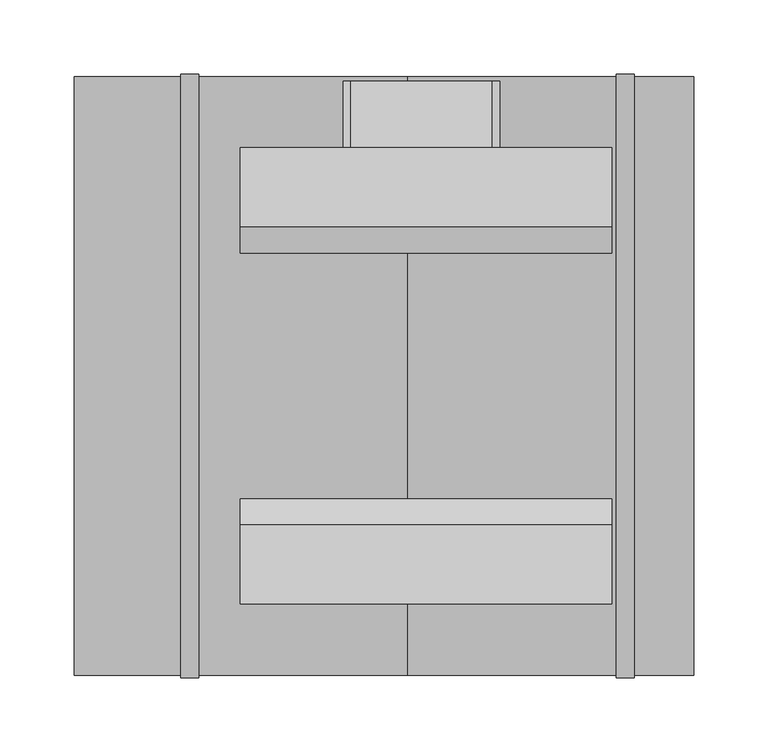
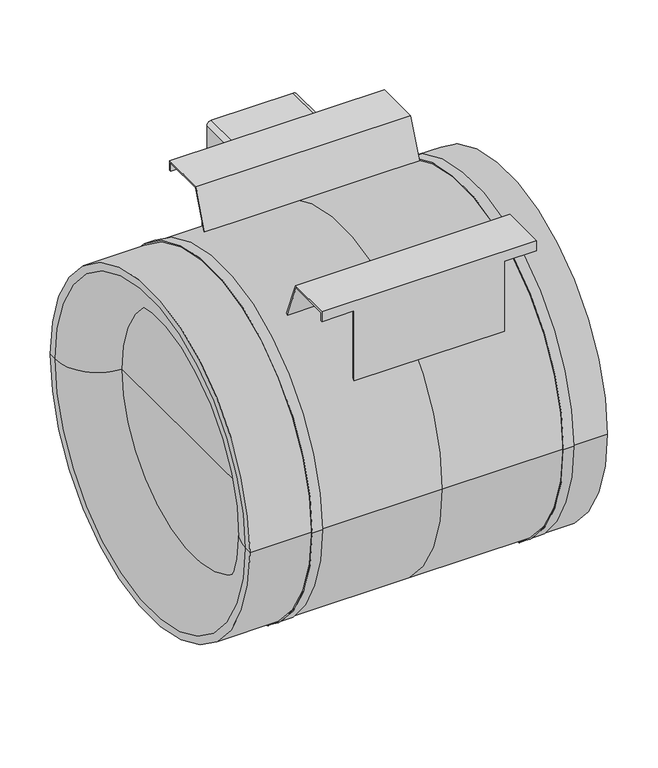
"""IFC4 building model written with IfcOpenShell, lengths in millimetres: unitary equipment geometry, VE-Wentylator-ParaForma-Harmann-JETTEC-Nawiewny : 400/3400S."""

from ifc_helpers import new_model, si_unit, point, frame, frame_2d, origin, place, context, project, spatial, polyline, circle_curve, ellipse_curve, trimmed, segment, composite_curve, outline, extrude, source, transform, mapped, element, save
from ifc_brep_helpers import plane_surface, cylinder_surface, revolved_surface, advanced_brep


def unitary_equipment_eebdb97d(model_context):
    return source(origin(), model_context, "Body", "SolidModel", [
        extrude(outline(composite_curve([segment(trimmed(circle_curve(frame_2d((138.9, 57.2)), 5.0), [point((133.9, 57.2))], [point((138.9, 62.2))], False, "CARTESIAN"), True, "CONTINUOUS"), segment(polyline([(138.9, 62.2), (219.9, 62.2)]), True, "CONTINUOUS"), segment(trimmed(circle_curve(frame_2d((219.9, 57.2)), 5.0), [point((219.9, 62.2))], [point((224.9, 57.2))], False, "CARTESIAN"), True, "CONTINUOUS"), segment(polyline([(224.9, 57.2), (224.9, -38.2)]), True, "CONTINUOUS"), segment(trimmed(circle_curve(frame_2d((219.9, -38.2)), 5.0), [point((224.9, -38.2))], [point((219.9, -43.2))], False, "CARTESIAN"), True, "CONTINUOUS"), segment(polyline([(219.9, -43.2), (138.9, -43.2)]), True, "CONTINUOUS"), segment(trimmed(circle_curve(frame_2d((138.9, -38.2)), 5.0), [point((138.9, -43.2))], [point((133.9, -38.2))], False, "CARTESIAN"), True, "CONTINUOUS"), segment(polyline([(133.9, -38.2), (133.9, 57.2)]), True, "CONTINUOUS")], self_intersect=False)), frame((0.0, 153.5, 0.0), z_axis=(0.0, 1.0, 0.0), x_axis=(0.0, 0.0, 1.0)), (0.0, 0.0, 1.0), 45.0),
        advanced_brep(
        [(137.5, 153.5, 216.5), (137.5, 153.5, 228.5), (137.5, 100.1, 228.5), (137.5, 82.790246, 183.7063558), (137.5, 84.6127647, 182.8740825), (137.5, 101.4712703, 226.5), (137.5, 151.5, 226.5), (137.5, 151.5, 216.5), (100.0, 151.5, 216.5), (100.0, 153.5, 216.5), (-112.5, 151.5, 226.5), (-112.5, 151.5, 216.5), (-75.0, 151.5, 216.5), (-75.0, 151.5, 132.8533026), (100.0, 151.5, 132.8533026), (-112.5, 101.4712703, 226.5), (100.0, 84.6127647, 182.8740825), (-75.0, 84.6127647, 182.8740825), (-112.5, 84.6127647, 182.8740825), (-112.5, 100.1, 228.5), (-112.5, 82.790246, 183.7063558), (-75.0, 82.790246, 183.7063558), (100.0, 82.790246, 183.7063558), (-112.5, 153.5, 228.5), (100.0, 153.5, 130.537351), (-75.0, 153.5, 130.537351), (-75.0, 153.5, 216.5), (-112.5, 153.5, 216.5)],
        [
            (0, 1),
            (1, 2),
            (2, 3),
            (3, 4, circle_curve(frame((137.5, 0.0, 0.0), z_axis=(-1.0, 0.0, 0.0), x_axis=(0.0, 1.0, 0.0)), 201.5)),
            (4, 5),
            (5, 6),
            (6, 7),
            (7, 0),
            (7, 8),
            (8, 9),
            (9, 0),
            (6, 10),
            (10, 11),
            (11, 12),
            (12, 13),
            (13, 14),
            (14, 8),
            (5, 15),
            (15, 10),
            (4, 16),
            (16, 17),
            (17, 18),
            (18, 15),
            (19, 20),
            (20, 21),
            (21, 22),
            (22, 3),
            (2, 19),
            (1, 23),
            (23, 19),
            (9, 24),
            (24, 25),
            (25, 26),
            (26, 27),
            (27, 23),
            (20, 18, circle_curve(frame((-112.5, 0.0, 0.0), z_axis=(-1.0, 0.0, 0.0), x_axis=(0.0, 1.0, 0.0)), 201.5)),
            (17, 21, circle_curve(frame((-75.0, 0.0, 0.0), z_axis=(1.0, 0.0, 0.0), x_axis=(0.0, 1.0, 0.0)), 201.5)),
            (22, 16, circle_curve(frame((100.0, 0.0, 0.0), z_axis=(-1.0, 0.0, 0.0), x_axis=(0.0, 1.0, 0.0)), 201.5)),
            (25, 13, circle_curve(frame((-75.0, 0.0, 0.0), z_axis=(1.0, 0.0, 0.0), x_axis=(0.0, 1.0, 0.0)), 201.5)),
            (12, 26),
            (14, 24, circle_curve(frame((100.0, 0.0, 0.0), z_axis=(-1.0, 0.0, 0.0), x_axis=(0.0, 1.0, 0.0)), 201.5)),
            (27, 11),
        ],
        [
            plane_surface(frame((137.5, 0.0, 0.0), z_axis=(1.0, 0.0, 0.0), x_axis=(0.0, 0.0, 1.0))),
            plane_surface(frame((100.0, 153.5, 216.5), z_axis=(0.0, 0.0, -1.0), x_axis=(1.0, 0.0, 0.0))),
            plane_surface(frame((100.0, 151.5, 216.5), z_axis=(0.0, -1.0, 0.0), x_axis=(1.0, 0.0, 0.0))),
            plane_surface(frame((100.0, 151.5, 226.5), z_axis=(0.0, 0.0, -1.0), x_axis=(1.0, 0.0, 0.0))),
            plane_surface(frame((100.0, 101.4712703, 226.5), z_axis=(0.0, 0.932776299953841, -0.36045578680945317), x_axis=(1.0, 0.0, 0.0))),
            plane_surface(frame((100.0, 11.8, 0.0), z_axis=(0.0, -0.9327762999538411, 0.36045578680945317), x_axis=(1.0, 0.0, 0.0))),
            plane_surface(frame((100.0, 100.1, 228.5), z_axis=(0.0, 0.0, 1.0), x_axis=(1.0, 0.0, 0.0))),
            plane_surface(frame((100.0, 153.5, 228.5), z_axis=(0.0, 1.0, 0.0), x_axis=(1.0, 0.0, 0.0))),
            revolved_surface(polyline([(-112.5, 201.5, 0.0), (-75.0, 201.5, 0.0)]), (-112.5, 0.0, 0.0), (-1.0, 0.0, 0.0)),
            revolved_surface(polyline([(100.0, 201.5, 0.0), (137.5, 201.5, 0.0)]), (100.0, 0.0, 0.0), (-1.0, 0.0, 0.0)),
            plane_surface(frame((-75.0, 0.0, 0.0), z_axis=(-1.0, 0.0, 0.0), x_axis=(0.0, 0.0, 1.0))),
            plane_surface(frame((100.0, 0.0, 0.0), z_axis=(1.0, 0.0, 0.0), x_axis=(0.0, 0.0, 1.0))),
            revolved_surface(polyline([(-75.0, 201.5, 0.0), (100.0, 201.5, 0.0)]), (-75.0, 0.0, 0.0), (-1.0, 0.0, 0.0)),
            plane_surface(frame((-112.5, 0.0, 0.0), z_axis=(-1.0, 0.0, 0.0), x_axis=(0.0, 0.0, 1.0))),
            plane_surface(frame((-112.5, 153.5, 216.5), z_axis=(0.0, 0.0, -1.0), x_axis=(1.0, 0.0, 0.0))),
        ],
        [
            (0, [[1, 2, 3, 4, 5, 6, 7, 8]]),
            (1, [[-8, 9, 10, 11]]),
            (2, [[-7, 12, 13, 14, 15, 16, 17, -9]]),
            (3, [[-12, -6, 18, 19]]),
            (4, [[-18, -5, 20, 21, 22, 23]]),
            (5, [[24, 25, 26, 27, -3, 28]]),
            (6, [[-28, -2, 29, 30]]),
            (7, [[-29, -1, -11, 31, 32, 33, 34, 35]]),
            (8, [[36, -22, 37, -25]]),
            (9, [[-4, -27, 38, -20]]),
            (10, [[39, -15, 40, -33]]),
            (11, [[41, -31, -10, -17]]),
            (12, [[-21, -38, -26, -37]]),
            (12, [[-39, -32, -41, -16]]),
            (13, [[42, -13, -19, -23, -36, -24, -30, -35]]),
            (14, [[-42, -34, -40, -14]]),
        ],
    ),
        advanced_brep(
        [(137.5, -100.1, 228.5), (137.5, -153.5, 228.5), (137.5, -153.5, 216.5), (137.5, -151.5, 216.5), (137.5, -151.5, 226.5), (137.5, -101.4712703, 226.5), (137.5, -84.6127647, 182.8740825), (137.5, -82.790246, 183.7063558), (-112.5, -101.4712703, 226.5), (-112.5, -84.6127647, 182.8740825), (-75.0, -84.6127647, 182.8740825), (100.0, -84.6127647, 182.8740825), (-112.5, -151.5, 226.5), (100.0, -151.5, 216.5), (100.0, -151.5, 132.8533026), (-75.0, -151.5, 132.8533026), (-75.0, -151.5, 216.5), (-112.5, -151.5, 216.5), (100.0, -153.5, 216.5), (-112.5, -153.5, 228.5), (-112.5, -153.5, 216.5), (-75.0, -153.5, 216.5), (-75.0, -153.5, 130.537351), (100.0, -153.5, 130.537351), (-112.5, -100.1, 228.5), (100.0, -82.790246, 183.7063558), (-75.0, -82.790246, 183.7063558), (-112.5, -82.790246, 183.7063558)],
        [
            (0, 1),
            (1, 2),
            (2, 3),
            (3, 4),
            (4, 5),
            (5, 6),
            (6, 7, circle_curve(frame((137.5, 0.0, 0.0), z_axis=(-1.0, 0.0, 0.0), x_axis=(0.0, 1.0, 0.0)), 201.5)),
            (7, 0),
            (8, 9),
            (9, 10),
            (10, 11),
            (11, 6),
            (5, 8),
            (4, 12),
            (12, 8),
            (3, 13),
            (13, 14),
            (14, 15),
            (15, 16),
            (16, 17),
            (17, 12),
            (2, 18),
            (18, 13),
            (1, 19),
            (19, 20),
            (20, 21),
            (21, 22),
            (22, 23),
            (23, 18),
            (0, 24),
            (24, 19),
            (7, 25),
            (25, 26),
            (26, 27),
            (27, 24),
            (9, 27, circle_curve(frame((-112.5, 0.0, 0.0), z_axis=(-1.0, 0.0, 0.0), x_axis=(0.0, 1.0, 0.0)), 201.5)),
            (26, 10, circle_curve(frame((-75.0, 0.0, 0.0), z_axis=(1.0, 0.0, 0.0), x_axis=(0.0, 1.0, 0.0)), 201.5)),
            (11, 25, circle_curve(frame((100.0, 0.0, 0.0), z_axis=(-1.0, 0.0, 0.0), x_axis=(0.0, 1.0, 0.0)), 201.5)),
            (15, 22, circle_curve(frame((-75.0, 0.0, 0.0), z_axis=(1.0, 0.0, 0.0), x_axis=(0.0, 1.0, 0.0)), 201.5)),
            (21, 16),
            (23, 14, circle_curve(frame((100.0, 0.0, 0.0), z_axis=(-1.0, 0.0, 0.0), x_axis=(0.0, 1.0, 0.0)), 201.5)),
            (17, 20),
        ],
        [
            plane_surface(frame((137.5, 0.0, 0.0), z_axis=(1.0, 0.0, 0.0), x_axis=(0.0, 0.0, 1.0))),
            plane_surface(frame((100.0, -13.1712703, -2.0), z_axis=(0.0, -0.932776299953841, -0.36045578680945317), x_axis=(1.0, 0.0, 0.0))),
            plane_surface(frame((100.0, -101.4712703, 226.5), z_axis=(0.0, 0.0, -1.0), x_axis=(1.0, 0.0, 0.0))),
            plane_surface(frame((100.0, -151.5, 226.5), z_axis=(0.0, 1.0, 0.0), x_axis=(1.0, 0.0, 0.0))),
            plane_surface(frame((100.0, -151.5, 216.5), z_axis=(0.0, 0.0, -1.0), x_axis=(1.0, 0.0, 0.0))),
            plane_surface(frame((100.0, -153.5, 216.5), z_axis=(0.0, -1.0, 0.0), x_axis=(1.0, 0.0, 0.0))),
            plane_surface(frame((100.0, -153.5, 228.5), z_axis=(0.0, 0.0, 1.0), x_axis=(1.0, 0.0, 0.0))),
            plane_surface(frame((100.0, -100.1, 228.5), z_axis=(0.0, 0.9327762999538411, 0.36045578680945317), x_axis=(1.0, 0.0, 0.0))),
            revolved_surface(polyline([(-112.5, 201.5, 0.0), (-75.0, 201.5, 0.0)]), (-112.5, 0.0, 0.0), (-1.0, 0.0, 0.0)),
            revolved_surface(polyline([(100.0, 201.5, 0.0), (137.5, 201.5, 0.0)]), (100.0, 0.0, 0.0), (-1.0, 0.0, 0.0)),
            plane_surface(frame((-75.0, 0.0, 0.0), z_axis=(-1.0, 0.0, 0.0), x_axis=(0.0, 0.0, 1.0))),
            plane_surface(frame((100.0, 0.0, 0.0), z_axis=(1.0, 0.0, 0.0), x_axis=(0.0, 0.0, 1.0))),
            revolved_surface(polyline([(-75.0, 201.5, 0.0), (100.0, 201.5, 0.0)]), (-75.0, 0.0, 0.0), (-1.0, 0.0, 0.0)),
            plane_surface(frame((-112.5, 0.0, 0.0), z_axis=(-1.0, 0.0, 0.0), x_axis=(0.0, 0.0, 1.0))),
            plane_surface(frame((-112.5, -151.5, 216.5), z_axis=(0.0, 0.0, -1.0), x_axis=(1.0, 0.0, 0.0))),
        ],
        [
            (0, [[1, 2, 3, 4, 5, 6, 7, 8]]),
            (1, [[9, 10, 11, 12, -6, 13]]),
            (2, [[-13, -5, 14, 15]]),
            (3, [[-14, -4, 16, 17, 18, 19, 20, 21]]),
            (4, [[-3, 22, 23, -16]]),
            (5, [[-2, 24, 25, 26, 27, 28, 29, -22]]),
            (6, [[-24, -1, 30, 31]]),
            (7, [[-30, -8, 32, 33, 34, 35]]),
            (8, [[36, -34, 37, -10]]),
            (9, [[-7, -12, 38, -32]]),
            (10, [[39, -27, 40, -19]]),
            (11, [[41, -17, -23, -29]]),
            (12, [[-11, -37, -33, -38]]),
            (12, [[-39, -18, -41, -28]]),
            (13, [[-15, -21, 42, -25, -31, -35, -36, -9]]),
            (14, [[-42, -20, -40, -26]]),
        ],
    ),
        advanced_brep(
        [(-140.5, 201.5, 0.0), (0.0, 201.5, 0.0), (0.0, -201.5, 0.0), (-140.5, -201.5, 0.0), (-224.0, -201.5, 0.0), (-224.0, 201.5, 0.0), (-152.5, 201.5, 0.0), (-152.5, -201.5, 0.0), (-224.0, -192.5, 0.0), (-224.0, 192.5, 0.0), (-174.5, -143.0, 0.0), (-174.5, 143.0, 0.0), (-174.5, 0.0, 0.0), (192.5, -201.5, 0.0), (192.5, 201.5, 0.0), (192.5, 0.0, 0.0), (152.5, -201.5, 0.0), (152.5, 201.5, 0.0), (140.5, 201.5, 0.0), (140.5, -201.5, 0.0), (-140.5, -203.0, 0.0), (-140.5, 203.0, 0.0), (-152.5, -203.0, 0.0), (-152.5, 203.0, 0.0), (152.5, -203.0, 0.0), (152.5, 203.0, 0.0), (140.5, -203.0, 0.0), (140.5, 203.0, 0.0)],
        [
            (0, 1),
            (1, 2, circle_curve(frame((0.0, 0.0, 0.0), z_axis=(-1.0, 0.0, 0.0), x_axis=(0.0, 1.0, 0.0)), 201.5)),
            (2, 3),
            (3, 0, circle_curve(frame((-140.5, 0.0, 0.0), z_axis=(1.0, 0.0, 0.0), x_axis=(0.0, 1.0, 0.0)), 201.5)),
            (0, 3, circle_curve(frame((-140.5, 0.0, 0.0), z_axis=(1.0, 0.0, 0.0), x_axis=(0.0, 1.0, 0.0)), 201.5)),
            (2, 1, circle_curve(frame((0.0, 0.0, 0.0), z_axis=(-1.0, 0.0, 0.0), x_axis=(0.0, 1.0, 0.0)), 201.5)),
            (4, 5, circle_curve(frame((-224.0, 0.0, 0.0), z_axis=(1.0, 0.0, 0.0), x_axis=(0.0, 1.0, 0.0)), 201.5)),
            (5, 6),
            (6, 7, circle_curve(frame((-152.5, 0.0, 0.0), z_axis=(-1.0, 0.0, 0.0), x_axis=(0.0, 1.0, 0.0)), 201.5)),
            (7, 4),
            (5, 4, circle_curve(frame((-224.0, 0.0, 0.0), z_axis=(1.0, 0.0, 0.0), x_axis=(0.0, 1.0, 0.0)), 201.5)),
            (7, 6, circle_curve(frame((-152.5, 0.0, 0.0), z_axis=(-1.0, 0.0, 0.0), x_axis=(0.0, 1.0, 0.0)), 201.5)),
            (4, 8),
            (8, 9, circle_curve(frame((-224.0, 0.0, 0.0), z_axis=(1.0, 0.0, 0.0), x_axis=(0.0, 1.0, 0.0)), 192.5)),
            (9, 5),
            (9, 8, circle_curve(frame((-224.0, 0.0, 0.0), z_axis=(1.0, 0.0, 0.0), x_axis=(0.0, 1.0, 0.0)), 192.5)),
            (8, 10, circle_curve(frame((-174.5, -192.5, 0.0), z_axis=(0.0, 0.0, -1.0), x_axis=(1.0, 0.0, 0.0)), 49.5)),
            (10, 11, circle_curve(frame((-174.5, 0.0, 0.0), z_axis=(1.0, 0.0, 0.0), x_axis=(0.0, 1.0, 0.0)), 143.0)),
            (11, 9, circle_curve(frame((-174.5, 192.5, 0.0), z_axis=(0.0, 0.0, -1.0), x_axis=(1.0, 0.0, 0.0)), 49.5)),
            (11, 10, circle_curve(frame((-174.5, 0.0, 0.0), z_axis=(1.0, 0.0, 0.0), x_axis=(0.0, 1.0, 0.0)), 143.0)),
            (10, 12),
            (12, 11),
            (13, 14, circle_curve(frame((192.5, 0.0, 0.0), z_axis=(1.0, 0.0, 0.0), x_axis=(0.0, 1.0, 0.0)), 201.5)),
            (14, 15),
            (15, 13),
            (14, 13, circle_curve(frame((192.5, 0.0, 0.0), z_axis=(1.0, 0.0, 0.0), x_axis=(0.0, 1.0, 0.0)), 201.5)),
            (13, 16),
            (16, 17, circle_curve(frame((152.5, 0.0, 0.0), z_axis=(1.0, 0.0, 0.0), x_axis=(0.0, 1.0, 0.0)), 201.5)),
            (17, 14),
            (17, 16, circle_curve(frame((152.5, 0.0, 0.0), z_axis=(1.0, 0.0, 0.0), x_axis=(0.0, 1.0, 0.0)), 201.5)),
            (1, 18),
            (18, 19, circle_curve(frame((140.5, 0.0, 0.0), z_axis=(-1.0, 0.0, 0.0), x_axis=(0.0, 1.0, 0.0)), 201.5)),
            (19, 2),
            (19, 18, circle_curve(frame((140.5, 0.0, 0.0), z_axis=(-1.0, 0.0, 0.0), x_axis=(0.0, 1.0, 0.0)), 201.5)),
            (20, 21, circle_curve(frame((-140.5, 0.0, 0.0), z_axis=(1.0, 0.0, 0.0), x_axis=(0.0, 1.0, 0.0)), 203.0)),
            (21, 0),
            (3, 20),
            (21, 20, circle_curve(frame((-140.5, 0.0, 0.0), z_axis=(1.0, 0.0, 0.0), x_axis=(0.0, 1.0, 0.0)), 203.0)),
            (20, 22),
            (22, 23, circle_curve(frame((-152.5, 0.0, 0.0), z_axis=(1.0, 0.0, 0.0), x_axis=(0.0, 1.0, 0.0)), 203.0)),
            (23, 21),
            (23, 22, circle_curve(frame((-152.5, 0.0, 0.0), z_axis=(1.0, 0.0, 0.0), x_axis=(0.0, 1.0, 0.0)), 203.0)),
            (22, 7),
            (6, 23),
            (24, 25, circle_curve(frame((152.5, 0.0, 0.0), z_axis=(1.0, 0.0, 0.0), x_axis=(0.0, 1.0, 0.0)), 203.0)),
            (25, 17),
            (16, 24),
            (25, 24, circle_curve(frame((152.5, 0.0, 0.0), z_axis=(1.0, 0.0, 0.0), x_axis=(0.0, 1.0, 0.0)), 203.0)),
            (24, 26),
            (26, 27, circle_curve(frame((140.5, 0.0, 0.0), z_axis=(1.0, 0.0, 0.0), x_axis=(0.0, 1.0, 0.0)), 203.0)),
            (27, 25),
            (27, 26, circle_curve(frame((140.5, 0.0, 0.0), z_axis=(1.0, 0.0, 0.0), x_axis=(0.0, 1.0, 0.0)), 203.0)),
            (26, 19),
            (18, 27),
        ],
        [
            cylinder_surface(frame((-174.5, 0.0, 0.0), z_axis=(-1.0, 0.0, 0.0), x_axis=(0.0, 1.0, 0.0)), 201.5),
            plane_surface(frame((-224.0, 0.0, 0.0), z_axis=(-1.0, 0.0, 0.0), x_axis=(0.0, 1.0, 0.0))),
            revolved_surface(trimmed(ellipse_curve(frame((-174.5, 192.5, 0.0), z_axis=(0.0, 0.0, 1.0), x_axis=(1.0, 0.0, 0.0)), 49.5, 49.5), [point((-224.0, 192.5, 0.0))], [point((-174.5, 143.0, 0.0))], True, "CARTESIAN"), (-174.5, 0.0, 0.0), (-1.0, 0.0, 0.0)),
            plane_surface(frame((-174.5, 0.0, 0.0), z_axis=(-1.0, 0.0, 0.0), x_axis=(0.0, 1.0, 0.0))),
            plane_surface(frame((192.5, 0.0, 0.0), z_axis=(1.0, 0.0, 0.0), x_axis=(0.0, 1.0, 0.0))),
            cylinder_surface(frame((0.0, 0.0, 0.0), z_axis=(-1.0, 0.0, 0.0), x_axis=(0.0, 1.0, 0.0)), 201.5),
            plane_surface(frame((-140.5, 0.0, 0.0), z_axis=(1.0, 0.0, 0.0), x_axis=(0.0, 1.0, 0.0))),
            cylinder_surface(frame((-152.5, 0.0, 0.0), z_axis=(-1.0, 0.0, 0.0), x_axis=(0.0, 1.0, 0.0)), 203.0),
            plane_surface(frame((-152.5, 0.0, 0.0), z_axis=(-1.0, 0.0, 0.0), x_axis=(0.0, 1.0, 0.0))),
            plane_surface(frame((152.5, 0.0, 0.0), z_axis=(1.0, 0.0, 0.0), x_axis=(0.0, 1.0, 0.0))),
            plane_surface(frame((140.5, 0.0, 0.0), z_axis=(-1.0, 0.0, 0.0), x_axis=(0.0, 1.0, 0.0))),
        ],
        [
            (0, [[1, 2, 3, 4]]),
            (0, [[-1, 5, -3, 6]]),
            (0, [[7, 8, 9, 10]]),
            (0, [[-8, 11, -10, 12]]),
            (1, [[-7, 13, 14, 15]]),
            (1, [[-11, -15, 16, -13]]),
            (2, [[-14, 17, 18, 19]]),
            (2, [[-16, -19, 20, -17]]),
            (3, [[-18, 21, 22]]),
            (3, [[-20, -22, -21]]),
            (4, [[23, 24, 25]]),
            (4, [[-24, 26, -25]]),
            (5, [[-23, 27, 28, 29]]),
            (5, [[-26, -29, 30, -27]]),
            (5, [[31, 32, 33, -2]]),
            (5, [[-31, -6, -33, 34]]),
            (6, [[35, 36, -4, 37]]),
            (6, [[38, -37, -5, -36]]),
            (7, [[-35, 39, 40, 41]]),
            (7, [[-38, -41, 42, -39]]),
            (8, [[-40, 43, -9, 44]]),
            (8, [[-42, -44, -12, -43]]),
            (9, [[45, 46, -28, 47]]),
            (9, [[48, -47, -30, -46]]),
            (7, [[-45, 49, 50, 51]]),
            (7, [[-48, -51, 52, -49]]),
            (10, [[-50, 53, -32, 54]]),
            (10, [[-52, -54, -34, -53]]),
        ],
    ),
    ])


if __name__ == "__main__":
    model = new_model("IFC4")
    model_context = context("Model", 3, world=origin())
    ifc_project = project(units=[si_unit("LENGTHUNIT", "METRE", prefix="MILLI")], contexts=[model_context])
    site = spatial("IfcSite", under=ifc_project)
    building = spatial("IfcBuilding", under=site)
    placement = place(None, origin())
    unitary_equipment_shape = unitary_equipment_eebdb97d(model_context)
    element("IfcUnitaryEquipment", 1, ObjectType="VE-Wentylator-ParaForma-Harmann-JETTEC-Nawiewny : 400/3400S", at=placement, inside=building, context=model_context, shape_type="MappedRepresentation", body=[
        mapped(unitary_equipment_shape, transform((0.0, 0.0, 0.0), x_axis=(1.0, 0.0, 0.0), y_axis=(0.0, 1.0, 0.0), z_axis=(0.0, 0.0, 1.0))),
    ])
    save(model, "model.ifc")
